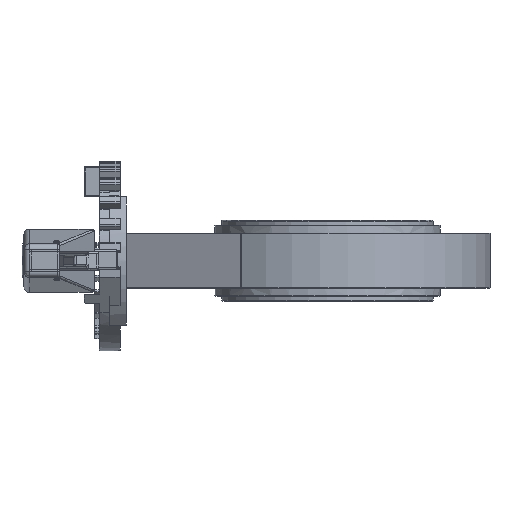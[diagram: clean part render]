
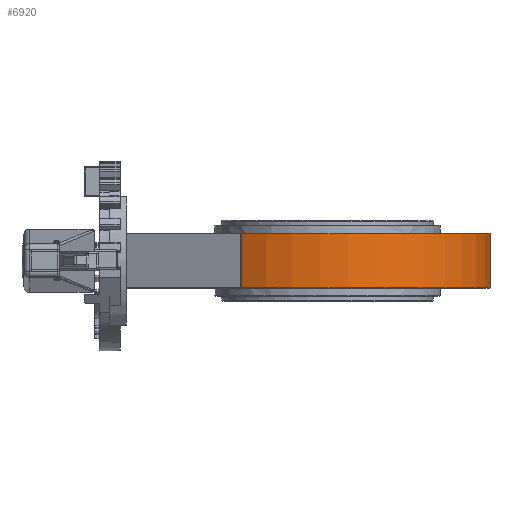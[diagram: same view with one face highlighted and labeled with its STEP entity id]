
A CAD part, left-side view. The second image highlights one B-rep face of the part: STEP entity #6920.
In plain terms, the highlighted cylindrical face has radius 126.75 mm (diameter 253.5 mm), a partial arc.
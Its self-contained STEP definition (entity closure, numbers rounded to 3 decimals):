
#6920=ADVANCED_FACE('',(#24650),#24652,.T.);
#24650=FACE_BOUND('',#24651,.T.);
#24651=EDGE_LOOP('',(#30935,#30936,#30937,#30938));
#24652=CYLINDRICAL_SURFACE('',#24653,126.75);
#24653=AXIS2_PLACEMENT_3D('',#24654,#24655,#24656);
#24654=CARTESIAN_POINT('',(0.,0.,0.));
#24655=DIRECTION('',(0.,0.,1.));
#24656=DIRECTION('',(0.,-1.,0.));
#30935=ORIENTED_EDGE('',*,*,#33899,.F.);
#30936=ORIENTED_EDGE('',*,*,#33896,.F.);
#30937=ORIENTED_EDGE('',*,*,#33821,.F.);
#30938=ORIENTED_EDGE('',*,*,#33993,.F.);
#33821=EDGE_CURVE('',#37470,#37473,#37474,.T.);
#33896=EDGE_CURVE('',#37473,#37595,#37597,.T.);
#33899=EDGE_CURVE('',#37595,#37600,#37601,.T.);
#33993=EDGE_CURVE('',#37600,#37470,#37751,.T.);
#37470=VERTEX_POINT('',#62613);
#37473=VERTEX_POINT('',#62622);
#37474=CIRCLE('',#62623,126.75);
#37595=VERTEX_POINT('',#64163);
#37597=LINE('',#64168,#64169);
#37600=VERTEX_POINT('',#64179);
#37601=CIRCLE('',#64180,126.75);
#37751=LINE('',#66083,#66084);
#62613=CARTESIAN_POINT('',(107.567,67.044,-21.));
#62622=CARTESIAN_POINT('',(-107.567,67.044,-21.));
#62623=AXIS2_PLACEMENT_3D('',#62624,#62625,#62626);
#62624=CARTESIAN_POINT('',(0.,0.,-21.));
#62625=DIRECTION('',(0.,0.,-1.));
#62626=DIRECTION('',(0.849,0.529,0.));
#64163=CARTESIAN_POINT('',(-107.567,67.044,21.));
#64168=CARTESIAN_POINT('',(-107.567,67.044,-21.));
#64169=VECTOR('',#64170,1.);
#64170=DIRECTION('',(0.,0.,1.));
#64179=CARTESIAN_POINT('',(107.567,67.044,21.));
#64180=AXIS2_PLACEMENT_3D('',#64181,#64182,#64183);
#64181=CARTESIAN_POINT('',(0.,0.,21.));
#64182=DIRECTION('',(0.,0.,1.));
#64183=DIRECTION('',(-0.849,0.529,0.));
#66083=CARTESIAN_POINT('',(107.567,67.044,21.));
#66084=VECTOR('',#66085,1.);
#66085=DIRECTION('',(0.,0.,-1.));
